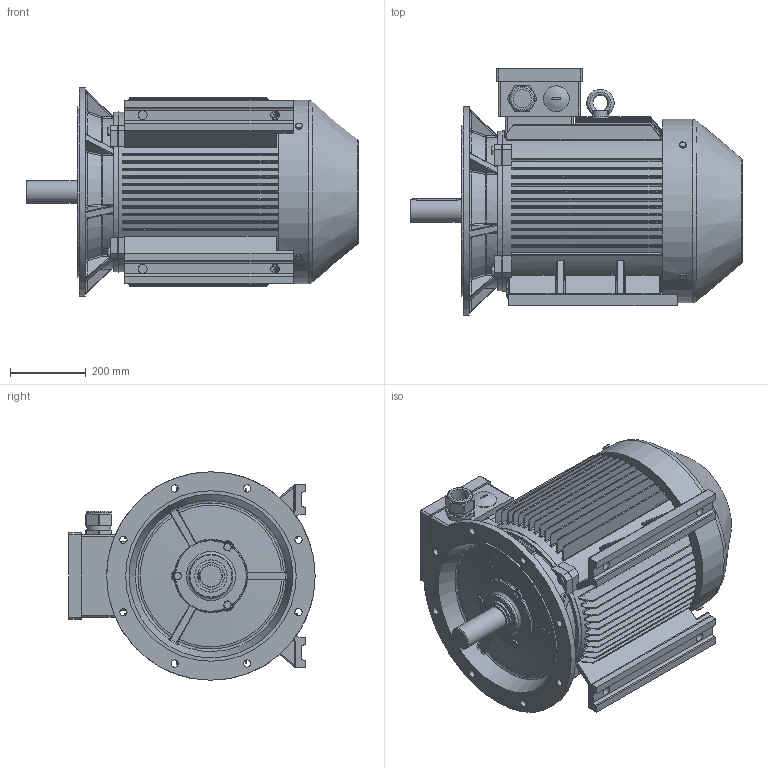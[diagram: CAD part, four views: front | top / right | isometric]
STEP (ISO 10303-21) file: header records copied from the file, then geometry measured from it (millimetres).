
FILE_DESCRIPTION(/* description */ ('01-IP55-Cast Iron-IE4-250M B35-2'),/* implementation_level */ '2;1');
FILE_NAME(/* name */ 'D:\02 - Onedrive\OneDrive\01 - Werkbestanden\121 - OMEC\1408 - MOTOREN CAD BIBLIOTHEEK\1408 - Gereed\OMT1-IE4\01-IP55-Cast Iron-IE4-250M B35-2.stp',/* time_stamp */ '2017-10-19T10:39:40+02:00',/* author */ ('freek'),/* organization */ (''),/* preprocessor_version */ 'ST-DEVELOPER v16.1',/* originating_system */ 'Autodesk Inventor 2016',/* authorisation */ '');
FILE_SCHEMA (('AUTOMOTIVE_DESIGN { 1 0 10303 214 3 1 1 }'));
Products named in the file (1): 1408-750
Bounding box: 876.1 x 650 x 550 mm (x, y, z)
Volume: 114180561.3 mm3; surface area: 3912507.5 mm2
Topology: 5 solids, 18 shells, 2578 faces, 6312 edges, 4067 vertices
Faces by surface type: plane 1800, cylinder 395, cone 191, bspline 146, torus 46
Full cylindrical faces by diameter (mm): 8 x1, 11.053 x4, 11.459 x3, 12 x17, 15.4 x4, 17.2 x7, 19 x8, 24 x4, 48 x1, 60 x1, 63 x1, 66 x1, 68 x1, 70 x1, 85 x1, 85.2 x1, 115 x1, 250 x1, 422 x1, 450 x1, 484 x1, 550 x1
Entity records: 85200 total; most frequent: CARTESIAN_POINT 23748, ORIENTED_EDGE 12416, DIRECTION 11297, EDGE_CURVE 6200, LINE 4261, VECTOR 4261, VERTEX_POINT 4040, AXIS2_PLACEMENT_3D 3518
